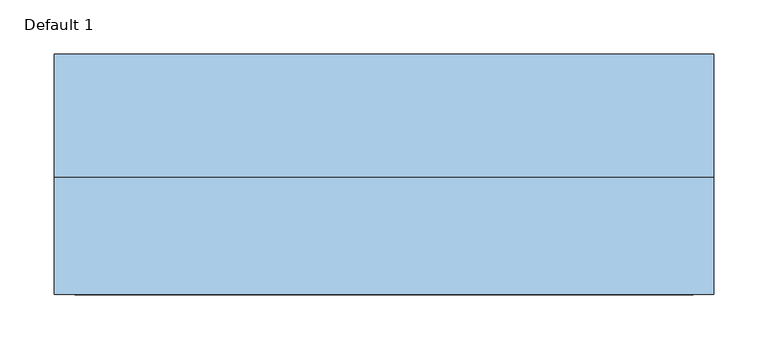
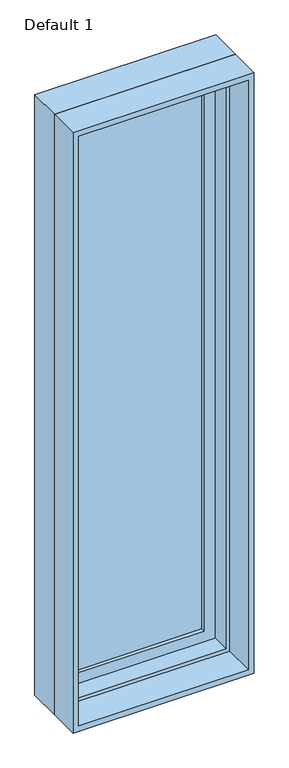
"""IFC4 building model written with IfcOpenShell, lengths in millimetres: window geometry, Planitar-Casement-Single_Left : Default 1."""

from ifc_helpers import new_model, si_unit, frame, origin, place, context, project, spatial, polyline, outline, extrude, faceted_brep, source, transform, mapped, element, save


def default_1_73fc72e4(model_context):
    return source(origin(), model_context, "Body", "SolidModel", [
        extrude(outline(polyline([(234.95, 101.6), (234.95, 95.25), (-234.95, 95.25), (-234.95, 101.6), (234.95, 101.6)])), frame((0.0, 0.0, 984.25), z_axis=(0.0, 0.0, 1.0), x_axis=(1.0, 0.0, 0.0)), (0.0, 0.0, 1.0), 1993.9),
        extrude(outline(polyline([(-234.95, 82.55), (-234.95, 88.9), (234.95, 88.9), (234.95, 82.55), (-234.95, 82.55)])), frame((0.0, 0.0, 984.25), z_axis=(0.0, 0.0, 1.0), x_axis=(1.0, 0.0, 0.0)), (0.0, 0.0, 1.0), 1993.9),
        extrude(outline(polyline([(3035.3, -292.1), (927.1, -292.1), (927.1, 292.1), (3035.3, 292.1), (3035.3, -292.1)]), holes=[polyline([(2978.15, 234.95), (984.25, 234.95), (984.25, -234.95), (2978.15, -234.95), (2978.15, 234.95)])]), frame((0.0, 69.85, 0.0), z_axis=(0.0, 1.0, 0.0), x_axis=(0.0, 0.0, 1.0)), (0.0, 0.0, 1.0), 44.45),
        extrude(outline(polyline([(3048.0, -304.8), (914.4, -304.8), (914.4, 304.8), (3048.0, 304.8), (3048.0, -304.8)]), holes=[polyline([(3028.95, 285.75), (933.45, 285.75), (933.45, -285.75), (3028.95, -285.75), (3028.95, 285.75)])]), frame((0.0, -101.6, 0.0), z_axis=(0.0, 1.0, 0.0), x_axis=(0.0, 0.0, 1.0)), (0.0, 0.0, 1.0), 107.95),
        faceted_brep([(273.05, 69.85, 3016.25), (273.05, 6.35, 3016.25), (-273.05, 6.35, 3016.25), (-273.05, 69.85, 3016.25), (292.1, 120.65, 3035.3), (292.1, 69.85, 3035.3), (-292.1, 69.85, 3035.3), (-292.1, 120.65, 3035.3), (304.8, 6.35, 3048.0), (304.8, 120.65, 3048.0), (-304.8, 120.65, 3048.0), (-304.8, 6.35, 3048.0), (-273.05, 6.35, 946.15), (-273.05, 69.85, 946.15), (-292.1, 69.85, 927.1), (-292.1, 120.65, 927.1), (-304.8, 120.65, 914.4), (-304.8, 6.35, 914.4), (273.05, 6.35, 946.15), (273.05, 69.85, 946.15), (292.1, 69.85, 927.1), (292.1, 120.65, 927.1), (304.8, 120.65, 914.4), (304.8, 6.35, 914.4)], [[[0, 1, 2, 3]], [[4, 5, 6, 7]], [[8, 9, 10, 11]], [[3, 2, 12, 13]], [[7, 6, 14, 15]], [[11, 10, 16, 17]], [[13, 12, 18, 19]], [[15, 14, 20, 21]], [[17, 16, 22, 23]], [[11, 17, 23, 8], [1, 18, 12, 2]], [[19, 18, 1, 0]], [[5, 20, 14, 6], [3, 13, 19, 0]], [[21, 20, 5, 4]], [[23, 22, 9, 8]], [[9, 22, 16, 10], [7, 15, 21, 4]]]),
    ])


if __name__ == "__main__":
    model = new_model("IFC4")
    model_context = context("Model", 3, world=origin())
    ifc_project = project(units=[si_unit("LENGTHUNIT", "METRE", prefix="MILLI")], contexts=[model_context])
    site = spatial("IfcSite", under=ifc_project)
    building = spatial("IfcBuilding", under=site)
    placement = place(None, origin())
    default_1_shape = default_1_73fc72e4(model_context)
    element("IfcWindow", 1, ObjectType="Planitar-Casement-Single_Left : Default 1", at=placement, inside=building, context=model_context, shape_type="MappedRepresentation", body=[
        mapped(default_1_shape, transform((0.0, 0.0, 0.0), x_axis=(1.0, 0.0, 0.0), y_axis=(0.0, 1.0, 0.0), z_axis=(0.0, 0.0, 1.0))),
    ])
    save(model, "model.ifc")
